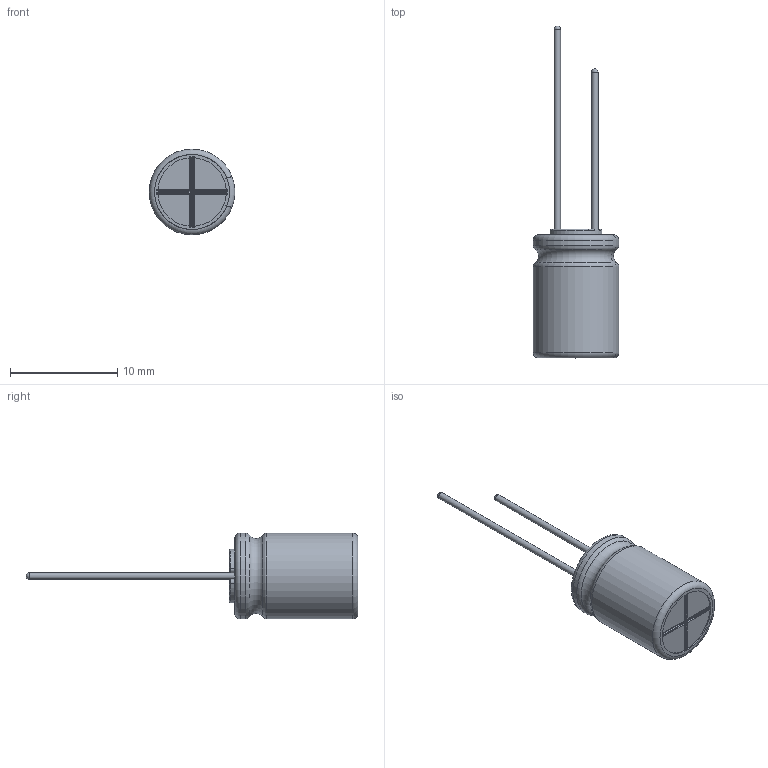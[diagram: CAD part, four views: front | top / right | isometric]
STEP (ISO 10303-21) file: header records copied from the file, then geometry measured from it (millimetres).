
FILE_DESCRIPTION(/* description */ (''),/* implementation_level */ '2;1');
FILE_NAME(/* name */ '8x12_Lead.stp',/* time_stamp */ '2017-09-05T13:56:07+09:00',/* author */ (''),/* organization */ (''),/* preprocessor_version */ 'ST-DEVELOPER v16',/* originating_system */ 'SIEMENS PLM Software NX 11.0',/* authorisation */ '');
FILE_SCHEMA (('AUTOMOTIVE_DESIGN { 1 0 10303 214 3 1 1 1 }'));
Length unit declared in the file: millimetre
Products named in the file (1): 8x12_Lead_0
Bounding box: 7.99 x 31 x 8 mm (x, y, z)
Volume: 576.4 mm3; surface area: 1076.8 mm2
Topology: 3 solids, 3 shells, 115 faces, 288 edges, 181 vertices
Faces by surface type: cylinder 44, torus 33, plane 28, sphere 6, bspline 4
Full cylindrical faces by diameter (mm): 0.6 x2, 7.8 x2
Entity records: 4020 total; most frequent: CARTESIAN_POINT 680, DIRECTION 664, ORIENTED_EDGE 544, AXIS2_PLACEMENT_3D 280, EDGE_CURVE 272, VERTEX_POINT 176, CIRCLE 160, EDGE_LOOP 128
